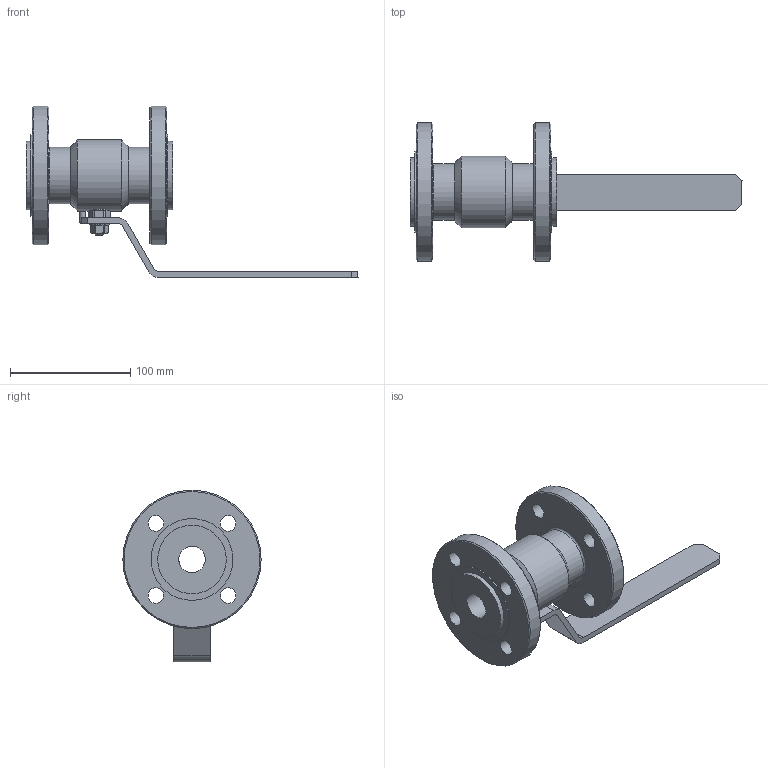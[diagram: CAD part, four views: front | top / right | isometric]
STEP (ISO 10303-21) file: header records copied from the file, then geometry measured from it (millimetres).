
FILE_DESCRIPTION(('STEP AP203'), '1');
FILE_NAME('ZARD 025.025.22.P.stp', '2013-12-05T13:03:12', ('User'), ('Computer'), 'ASCON STEP Converter 1.3', 'Kompas 3D', '');
FILE_SCHEMA(('CONFIG_CONTROL_DESIGN','SUPPORT_RESOURCE_SCHEMA'));
Length unit declared in the file: millimetre
Products named in the file (1): 208
Bounding box: 276 x 115 x 142.5 mm (x, y, z)
Volume: 467918.4 mm3; surface area: 97717.3 mm2
Topology: 1 solids, 3 shells, 172 faces, 384 edges, 239 vertices
Faces by surface type: plane 90, cylinder 53, cone 26, torus 3
Full cylindrical faces by diameter (mm): 5 x2, 8 x1, 10.7 x1, 10.917 x1, 12 x1, 12.1 x1, 13 x8, 19.8 x1, 20 x2, 22 x2, 38.4 x1, 47 x2, 57 x2, 59.3 x1, 68 x2, 115 x2
Entity records: 5691 total; most frequent: CARTESIAN_POINT 1660, DIRECTION 866, ORIENTED_EDGE 768, EDGE_CURVE 384, AXIS2_PLACEMENT_3D 337, VERTEX_POINT 239, EDGE_LOOP 213, LINE 192
